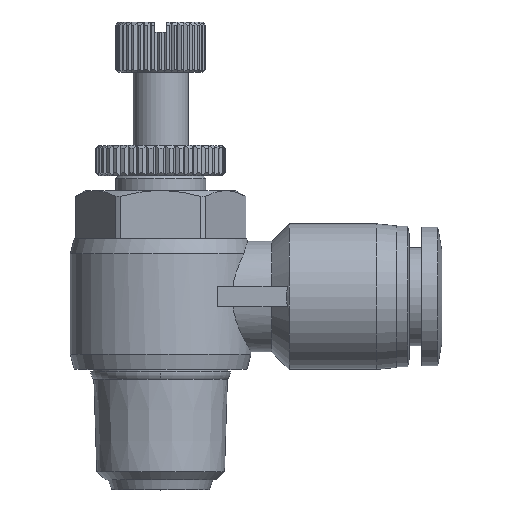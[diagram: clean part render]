
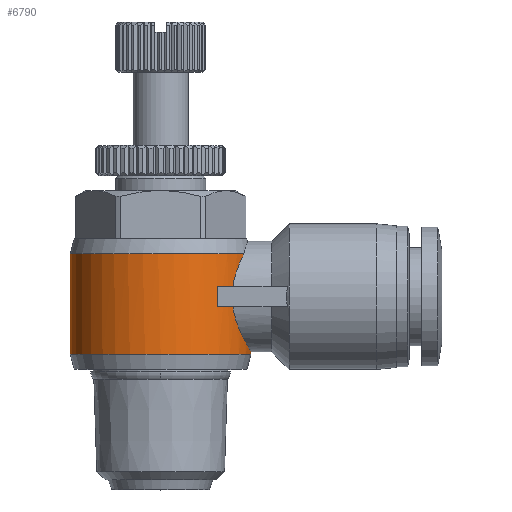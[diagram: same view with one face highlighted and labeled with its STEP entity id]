
A CAD part, top view. The second image highlights one B-rep face of the part: STEP entity #6790.
In plain terms, the highlighted cylindrical face has radius 9 mm (diameter 18 mm), a partial arc.
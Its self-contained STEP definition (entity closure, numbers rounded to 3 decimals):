
#214 = B_SPLINE_CURVE_WITH_KNOTS ( 'NONE', 3,
 ( #8507, #12363, #11535, #6614, #9584, #1981, #8699, #1847, #10476, #6557, #5682, #10354, #10410, #1784 ),
 .UNSPECIFIED., .F., .F.,
 ( 4, 2, 2, 1, 1, 2, 2, 4 ),
 ( 0., 0.25, 0.375, 0.437, 0.469, 0.484, 0.5, 1. ),
 .UNSPECIFIED. ) ;
#418 = CARTESIAN_POINT ( 'NONE',  ( 0., 23.5, 0. ) ) ;
#434 = EDGE_CURVE ( 'NONE', #10153, #8478, #1549, .T. ) ;
#620 = AXIS2_PLACEMENT_3D ( 'NONE', #2641, #8240, #5468 ) ;
#622 = CARTESIAN_POINT ( 'NONE',  ( 8.168, 15.25, 3.788 ) ) ;
#799 = CARTESIAN_POINT ( 'NONE',  ( 7.281, 17.626, 5.293 ) ) ;
#832 = EDGE_CURVE ( 'NONE', #2489, #12229, #214, .T. ) ;
#856 = CARTESIAN_POINT ( 'NONE',  ( 7.194, 18.25, 5.408 ) ) ;
#873 = EDGE_CURVE ( 'NONE', #8478, #2245, #1145, .T. ) ;
#934 = VECTOR ( 'NONE', #5842, 1000. ) ;
#980 = VERTEX_POINT ( 'NONE', #10573 ) ;
#993 = LINE ( 'NONE', #6578, #6625 ) ;
#1145 = CIRCLE ( 'NONE', #10188, 9. ) ;
#1184 = CARTESIAN_POINT ( 'NONE',  ( 7.194, 18.25, 5.408 ) ) ;
#1209 = EDGE_CURVE ( 'NONE', #8115, #10153, #3559, .T. ) ;
#1321 = ORIENTED_EDGE ( 'NONE', *, *, #2581, .F. ) ;
#1549 = B_SPLINE_CURVE_WITH_KNOTS ( 'NONE', 3,
 ( #9233, #3568, #1683, #4394, #4337, #11254, #8178, #5517, #7276, #4577, #3623, #11142, #3506, #11082, #7456, #10369, #1571, #1744, #622, #12028, #7216, #2512, #5401, #4452, #7343, #10621, #10426, #11428, #10557, #799, #856 ),
 .UNSPECIFIED., .F., .F.,
 ( 4, 2, 1, 1, 2, 2, 2, 2, 1, 2, 2, 2, 2, 1, 1, 2, 2, 4 ),
 ( 0.5, 0.563, 0.594, 0.609, 0.617, 0.625, 0.688, 0.719, 0.734, 0.742, 0.75, 0.813, 0.844, 0.859, 0.867, 0.871, 0.875, 1. ),
 .UNSPECIFIED. ) ;
#1571 = CARTESIAN_POINT ( 'NONE',  ( 8.298, 14.996, 3.486 ) ) ;
#1683 = CARTESIAN_POINT ( 'NONE',  ( 8.983, 13.778, 0.644 ) ) ;
#1744 = CARTESIAN_POINT ( 'NONE',  ( 8.284, 15.023, 3.518 ) ) ;
#1784 = CARTESIAN_POINT ( 'NONE',  ( 8.295, 23.5, 3.491 ) ) ;
#1847 = CARTESIAN_POINT ( 'NONE',  ( 7.619, 21.952, 4.79 ) ) ;
#1981 = CARTESIAN_POINT ( 'NONE',  ( 7.537, 21.712, 4.919 ) ) ;
#2245 = VERTEX_POINT ( 'NONE', #7023 ) ;
#2452 = ORIENTED_EDGE ( 'NONE', *, *, #4646, .T. ) ;
#2489 = VERTEX_POINT ( 'NONE', #8826 ) ;
#2512 = CARTESIAN_POINT ( 'NONE',  ( 7.855, 15.94, 4.395 ) ) ;
#2527 = CYLINDRICAL_SURFACE ( 'NONE', #620, 9. ) ;
#2581 = EDGE_CURVE ( 'NONE', #980, #12229, #7933, .T. ) ;
#2583 = FACE_OUTER_BOUND ( 'NONE', #9915, .T. ) ;
#2641 = CARTESIAN_POINT ( 'NONE',  ( 0., 18.5, 0. ) ) ;
#2897 = DIRECTION ( 'NONE',  ( 0., 1., 0. ) ) ;
#3126 = ORIENTED_EDGE ( 'NONE', *, *, #3318, .T. ) ;
#3312 = ORIENTED_EDGE ( 'NONE', *, *, #832, .T. ) ;
#3318 = EDGE_CURVE ( 'NONE', #2245, #10421, #9552, .T. ) ;
#3506 = CARTESIAN_POINT ( 'NONE',  ( 8.475, 14.659, 3.033 ) ) ;
#3515 = AXIS2_PLACEMENT_3D ( 'NONE', #418, #10931, #10997 ) ;
#3537 = VECTOR ( 'NONE', #10180, 1000. ) ;
#3559 = LINE ( 'NONE', #4086, #3537 ) ;
#3568 = CARTESIAN_POINT ( 'NONE',  ( 9., 13.75, 0.323 ) ) ;
#3623 = CARTESIAN_POINT ( 'NONE',  ( 8.655, 14.333, 2.486 ) ) ;
#3855 = CIRCLE ( 'NONE', #10924, 9. ) ;
#4086 = CARTESIAN_POINT ( 'NONE',  ( 9., 18.5, 0. ) ) ;
#4337 = CARTESIAN_POINT ( 'NONE',  ( 8.9, 13.916, 1.357 ) ) ;
#4394 = CARTESIAN_POINT ( 'NONE',  ( 8.931, 13.863, 1.12 ) ) ;
#4452 = CARTESIAN_POINT ( 'NONE',  ( 7.74, 16.223, 4.592 ) ) ;
#4577 = CARTESIAN_POINT ( 'NONE',  ( 8.732, 14.199, 2.199 ) ) ;
#4646 = EDGE_CURVE ( 'NONE', #10421, #2489, #3855, .T. ) ;
#4654 = DIRECTION ( 'NONE',  ( -1., 0., 0. ) ) ;
#4856 = DIRECTION ( 'NONE',  ( -1., 0., 0. ) ) ;
#4902 = CARTESIAN_POINT ( 'NONE',  ( 5.657, 18.5, 7. ) ) ;
#4952 = VERTEX_POINT ( 'NONE', #11216 ) ;
#5401 = CARTESIAN_POINT ( 'NONE',  ( 7.778, 16.127, 4.528 ) ) ;
#5468 = DIRECTION ( 'NONE',  ( -1., 0., 0. ) ) ;
#5517 = CARTESIAN_POINT ( 'NONE',  ( 8.813, 14.061, 1.824 ) ) ;
#5682 = CARTESIAN_POINT ( 'NONE',  ( 7.66, 22.064, 4.725 ) ) ;
#5842 = DIRECTION ( 'NONE',  ( 0., 1., 0. ) ) ;
#6254 = ORIENTED_EDGE ( 'NONE', *, *, #873, .T. ) ;
#6557 = CARTESIAN_POINT ( 'NONE',  ( 7.653, 22.044, 4.737 ) ) ;
#6578 = CARTESIAN_POINT ( 'NONE',  ( -9., 18.5, 0. ) ) ;
#6603 = ORIENTED_EDGE ( 'NONE', *, *, #434, .T. ) ;
#6614 = CARTESIAN_POINT ( 'NONE',  ( 7.422, 21.337, 5.092 ) ) ;
#6615 = CIRCLE ( 'NONE', #9854, 9. ) ;
#6625 = VECTOR ( 'NONE', #10567, 1000. ) ;
#6790 = ADVANCED_FACE ( 'NONE', ( #2583 ), #2527, .T. ) ;
#7023 = CARTESIAN_POINT ( 'NONE',  ( 5.657, 18.25, 7. ) ) ;
#7216 = CARTESIAN_POINT ( 'NONE',  ( 7.906, 15.819, 4.301 ) ) ;
#7276 = CARTESIAN_POINT ( 'NONE',  ( 8.805, 14.076, 1.864 ) ) ;
#7343 = CARTESIAN_POINT ( 'NONE',  ( 7.697, 16.337, 4.665 ) ) ;
#7456 = CARTESIAN_POINT ( 'NONE',  ( 8.363, 14.87, 3.327 ) ) ;
#7564 = DIRECTION ( 'NONE',  ( 0., -1., 0. ) ) ;
#7654 = CARTESIAN_POINT ( 'NONE',  ( 0., 13.5, 0. ) ) ;
#7668 = CARTESIAN_POINT ( 'NONE',  ( 9., 13.75, 0. ) ) ;
#7933 = CIRCLE ( 'NONE', #3515, 9. ) ;
#8115 = VERTEX_POINT ( 'NONE', #9745 ) ;
#8178 = CARTESIAN_POINT ( 'NONE',  ( 8.829, 14.035, 1.746 ) ) ;
#8240 = DIRECTION ( 'NONE',  ( 0., 1., 0. ) ) ;
#8472 = ORIENTED_EDGE ( 'NONE', *, *, #10585, .T. ) ;
#8478 = VERTEX_POINT ( 'NONE', #1184 ) ;
#8507 = CARTESIAN_POINT ( 'NONE',  ( 7.194, 20.25, 5.408 ) ) ;
#8699 = CARTESIAN_POINT ( 'NONE',  ( 7.574, 21.823, 4.862 ) ) ;
#8826 = CARTESIAN_POINT ( 'NONE',  ( 7.194, 20.25, 5.408 ) ) ;
#9233 = CARTESIAN_POINT ( 'NONE',  ( 9., 13.75, 0. ) ) ;
#9420 = CARTESIAN_POINT ( 'NONE',  ( 8.295, 23.5, 3.491 ) ) ;
#9552 = LINE ( 'NONE', #4902, #934 ) ;
#9584 = CARTESIAN_POINT ( 'NONE',  ( 7.466, 21.488, 5.027 ) ) ;
#9745 = CARTESIAN_POINT ( 'NONE',  ( 9., 13.5, 0. ) ) ;
#9854 = AXIS2_PLACEMENT_3D ( 'NONE', #7654, #11509, #4654 ) ;
#9915 = EDGE_LOOP ( 'NONE', ( #8472, #11064, #6603, #6254, #3126, #2452, #3312, #1321, #12242 ) ) ;
#10153 = VERTEX_POINT ( 'NONE', #7668 ) ;
#10180 = DIRECTION ( 'NONE',  ( 0., 1., 0. ) ) ;
#10188 = AXIS2_PLACEMENT_3D ( 'NONE', #12423, #7564, #11412 ) ;
#10354 = CARTESIAN_POINT ( 'NONE',  ( 7.866, 22.62, 4.39 ) ) ;
#10369 = CARTESIAN_POINT ( 'NONE',  ( 8.324, 14.945, 3.422 ) ) ;
#10410 = CARTESIAN_POINT ( 'NONE',  ( 8.087, 23.093, 3.986 ) ) ;
#10421 = VERTEX_POINT ( 'NONE', #11980 ) ;
#10426 = CARTESIAN_POINT ( 'NONE',  ( 7.666, 16.419, 4.715 ) ) ;
#10476 = CARTESIAN_POINT ( 'NONE',  ( 7.639, 22.007, 4.758 ) ) ;
#10557 = CARTESIAN_POINT ( 'NONE',  ( 7.444, 17.027, 5.075 ) ) ;
#10567 = DIRECTION ( 'NONE',  ( 0., 1., 0. ) ) ;
#10573 = CARTESIAN_POINT ( 'NONE',  ( -9., 23.5, 0. ) ) ;
#10585 = EDGE_CURVE ( 'NONE', #4952, #8115, #6615, .T. ) ;
#10621 = CARTESIAN_POINT ( 'NONE',  ( 7.678, 16.386, 4.695 ) ) ;
#10924 = AXIS2_PLACEMENT_3D ( 'NONE', #11791, #2897, #4856 ) ;
#10931 = DIRECTION ( 'NONE',  ( 0., 1., 0. ) ) ;
#10997 = DIRECTION ( 'NONE',  ( -1., 0., 0. ) ) ;
#11064 = ORIENTED_EDGE ( 'NONE', *, *, #1209, .T. ) ;
#11082 = CARTESIAN_POINT ( 'NONE',  ( 8.401, 14.798, 3.23 ) ) ;
#11142 = CARTESIAN_POINT ( 'NONE',  ( 8.522, 14.573, 2.898 ) ) ;
#11216 = CARTESIAN_POINT ( 'NONE',  ( -9., 13.5, 0. ) ) ;
#11254 = CARTESIAN_POINT ( 'NONE',  ( 8.852, 13.996, 1.63 ) ) ;
#11412 = DIRECTION ( 'NONE',  ( -1., 0., 0. ) ) ;
#11428 = CARTESIAN_POINT ( 'NONE',  ( 7.661, 16.435, 4.724 ) ) ;
#11509 = DIRECTION ( 'NONE',  ( 0., 1., 0. ) ) ;
#11535 = CARTESIAN_POINT ( 'NONE',  ( 7.302, 20.88, 5.264 ) ) ;
#11791 = CARTESIAN_POINT ( 'NONE',  ( 0., 20.25, 0. ) ) ;
#11980 = CARTESIAN_POINT ( 'NONE',  ( 5.657, 20.25, 7. ) ) ;
#12028 = CARTESIAN_POINT ( 'NONE',  ( 8.063, 15.468, 4.005 ) ) ;
#12127 = EDGE_CURVE ( 'NONE', #4952, #980, #993, .T. ) ;
#12229 = VERTEX_POINT ( 'NONE', #9420 ) ;
#12242 = ORIENTED_EDGE ( 'NONE', *, *, #12127, .F. ) ;
#12363 = CARTESIAN_POINT ( 'NONE',  ( 7.238, 20.568, 5.349 ) ) ;
#12423 = CARTESIAN_POINT ( 'NONE',  ( 0., 18.25, 0. ) ) ;
